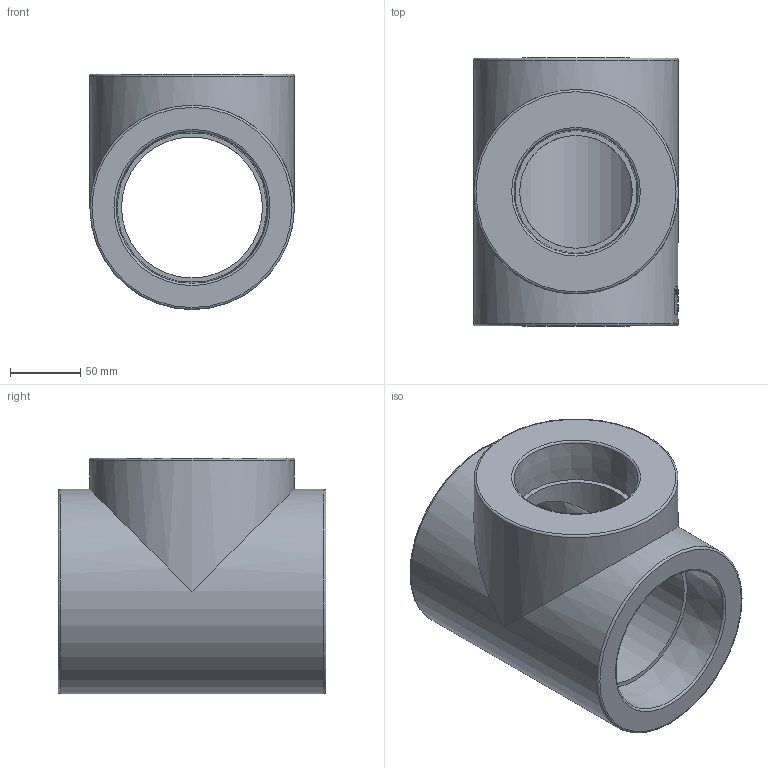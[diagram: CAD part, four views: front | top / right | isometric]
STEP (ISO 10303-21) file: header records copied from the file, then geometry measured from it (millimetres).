
FILE_DESCRIPTION(('STEP AP203'), '1');
FILE_NAME('ÂÐ.752241.075 - VTp.735.0.110090110', '', ('UNSPECIFIED'), ('UNSPECIFIED'), 'C3D Converter', 'C3D Toolkit', '');
FILE_SCHEMA(('CONFIG_CONTROL_DESIGN'));
Length unit declared in the file: millimetre
Products named in the file (1): ВР.752241.075
Bounding box: 145 x 190 x 167 mm (x, y, z)
Volume: 1823155.5 mm3; surface area: 184564.5 mm2
Topology: 1 solids, 1 shells, 553 faces, 1541 edges, 1025 vertices
Faces by surface type: extrusion 317, plane 187, cylinder 40, torus 6, cone 3
Full cylindrical faces by diameter (mm): 80 x1, 100 x1, 145 x2
Entity records: 26294 total; most frequent: CARTESIAN_POINT 13581, ORIENTED_EDGE 3054, DIRECTION 1699, EDGE_CURVE 1527, VERTEX_POINT 1025, B_SPLINE_CURVE_WITH_KNOTS 960, VECTOR 941, LINE 624
